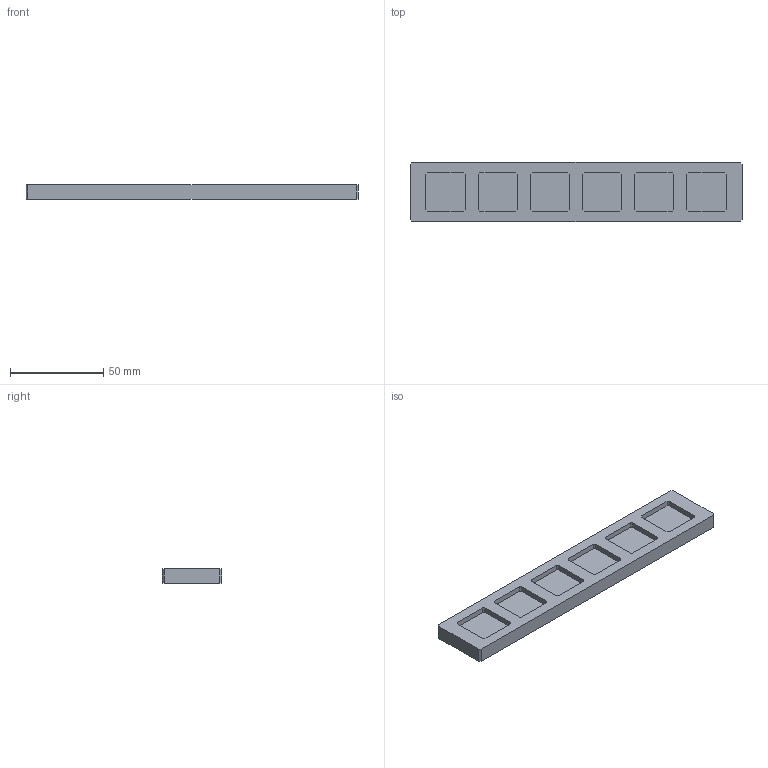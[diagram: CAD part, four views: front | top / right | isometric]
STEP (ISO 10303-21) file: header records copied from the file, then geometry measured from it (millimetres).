
FILE_DESCRIPTION(('Open CASCADE Model'),'2;1');
FILE_NAME('Open CASCADE Shape Model','2026-08-23T08:04:38',('Author'),( 'Open CASCADE'),'Open CASCADE STEP processor 7.9','Open CASCADE 7.9' ,'Unknown');
FILE_SCHEMA(('AUTOMOTIVE_DESIGN { 1 0 10303 214 1 1 1 1 }'));
Length unit declared in the file: millimetre
Products named in the file (2): =>[0:1:1:2]; COMPOUND
Assembly tree (1 placements, depth 2):
  =>[0:1:1:2]
    COMPOUND
Bounding box: 178 x 32 x 8 mm (x, y, z)
Volume: 37650 mm3; surface area: 16199.1 mm2
Topology: 1 solids, 1 shells, 64 faces, 168 edges, 112 vertices
Faces by surface type: plane 64
Entity records: 4112 total; most frequent: CARTESIAN_POINT 730, DIRECTION 588, LINE 456, VECTOR 456, ORIENTED_EDGE 336, PCURVE 336, DEFINITIONAL_REPRESENTATION 336, EDGE_CURVE 168
